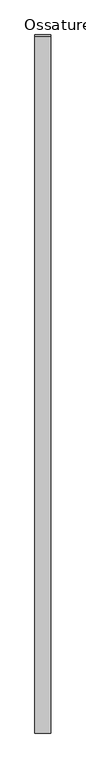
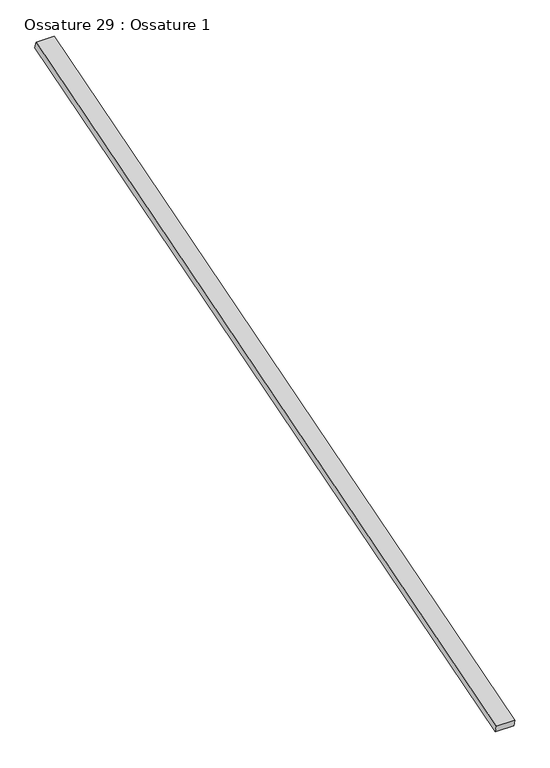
"""IFC4 building model written with IfcOpenShell, lengths in millimetres: beam geometry, Ossature 29 : Ossature 1."""

import ifcopenshell
import ifcopenshell.guid

model = None  # the IFC model being written
_history = None  # IfcOwnerHistory: only IFC2X3 demands one
_inside = {}  # id of a spatial element -> (the spatial element, [elements in it])
_under = {}  # id of a project, library or spatial element -> (it, [spatial elements below it])
_declared = {}  # id of a project -> (the project, [libraries it declares])
_typed = {}  # id of a type object -> (the type object, [elements of that type])
_made_of = {}  # id of a material, layer set ... -> (it, [elements and type objects made of it])


def new_model(schema):
    """Start an empty IFC model of exactly this schema.

    Asked for "IFC4X3", IfcOpenShell would pick the latest addendum, in which some entities
    have other attributes; the version numbers below select the first issue.
    IFC2X3 requires an IfcOwnerHistory on every rooted entity: one is made here for all.
    """
    global model, _history
    if schema == "IFC4X3":
        model = ifcopenshell.file(schema_version=(4, 3, 0, 0))
    else:
        model = ifcopenshell.file(schema=schema)
    _inside.clear()
    _under.clear()
    _declared.clear()
    _typed.clear()
    _made_of.clear()
    _history = None
    if model.schema == "IFC2X3":
        org = make("IfcOrganization", Name="unknown")
        user = make(
            "IfcPersonAndOrganization",
            ThePerson=make("IfcPerson", FamilyName="unknown"),
            TheOrganization=org,
        )
        app = make(
            "IfcApplication",
            ApplicationDeveloper=org,
            Version="unknown",
            ApplicationFullName="unknown",
            ApplicationIdentifier="unknown",
        )
        _history = make(
            "IfcOwnerHistory",
            OwningUser=user,
            OwningApplication=app,
            ChangeAction="ADDED",
            CreationDate=0,
        )
    return model


def make(cls, **values):
    """One entity of the class cls with the attributes given. An attribute that is None is left unset."""
    return model.create_entity(
        cls, **{name: value for name, value in values.items() if value is not None}
    )


def rooted(cls, **values):
    """An entity with a GlobalId (a new one), such as an element, a storey or a relation."""
    return make(cls, GlobalId=ifcopenshell.guid.new(), OwnerHistory=_history, **values)


def si_unit(unit_type, name, prefix=None):
    """IfcSIUnit, for example si_unit("LENGTHUNIT", "METRE", prefix="MILLI")."""
    return make("IfcSIUnit", UnitType=unit_type, Prefix=prefix, Name=name)


def assignment(units):
    """IfcUnitAssignment: the units of a project."""
    return None if units is None else make("IfcUnitAssignment", Units=units)


def point(xyz):
    """IfcCartesianPoint."""
    return None if xyz is None else make("IfcCartesianPoint", Coordinates=xyz)


def direction(xyz):
    """IfcDirection."""
    return None if xyz is None else make("IfcDirection", DirectionRatios=xyz)


def frame(location, z_axis=None, x_axis=None):
    """IfcAxis2Placement3D, a coordinate frame: its origin and axes. An axis left out is left unset."""
    return make(
        "IfcAxis2Placement3D",
        Location=point(location),
        Axis=direction(z_axis),
        RefDirection=direction(x_axis),
    )


def origin():
    """The frame at (0, 0, 0) with its axes left unset."""
    return frame((0.0, 0.0, 0.0))


def place(relative_to, where):
    """IfcLocalPlacement: puts the frame where relative to a parent placement (None: the world)."""
    return make(
        "IfcLocalPlacement", PlacementRelTo=relative_to, RelativePlacement=where
    )


def context(
    kind, dimensions, precision=None, world=None, true_north=None, identifier=None
):
    """IfcGeometricRepresentationContext, for example the 3D "Model" context."""
    return make(
        "IfcGeometricRepresentationContext",
        ContextIdentifier=identifier,
        ContextType=kind,
        CoordinateSpaceDimension=dimensions,
        Precision=precision,
        WorldCoordinateSystem=world,
        TrueNorth=true_north,
    )


def project(units=None, contexts=None):
    """IfcProject with its units and contexts."""
    return rooted(
        "IfcProject",
        Name="project",
        RepresentationContexts=contexts,
        UnitsInContext=assignment(units),
    )


def spatial(cls, under=None, at=None, **own):
    """A site, building, storey or space (cls), placed at a placement, below another one or the project."""
    s = rooted(cls, ObjectPlacement=at, **own)
    if under is not None:
        _under.setdefault(under.id(), (under, []))[1].append(s)
    return s


def polyline(points):
    """IfcPolyline through the points."""
    return make("IfcPolyline", Points=[point(p) for p in points])


def outline(outer, holes=None, kind="AREA"):
    """IfcArbitraryClosedProfileDef: a profile drawn as a closed curve; with holes, ...WithVoids."""
    if holes is None:
        return make("IfcArbitraryClosedProfileDef", ProfileType=kind, OuterCurve=outer)
    return make(
        "IfcArbitraryProfileDefWithVoids",
        ProfileType=kind,
        OuterCurve=outer,
        InnerCurves=holes,
    )


def extrude(swept, where, along, depth):
    """IfcExtrudedAreaSolid: the profile swept, set in the frame where, extruded along a direction by depth."""
    return make(
        "IfcExtrudedAreaSolid",
        SweptArea=swept,
        Position=where,
        ExtrudedDirection=direction(along),
        Depth=depth,
    )


def shape(context_of_items, identifier, shape_type, items):
    """IfcShapeRepresentation: the items that make up one representation, for example the "Body"."""
    return make(
        "IfcShapeRepresentation",
        ContextOfItems=context_of_items,
        RepresentationIdentifier=identifier,
        RepresentationType=shape_type,
        Items=items,
    )


def source(mapping_origin, context_of_items, identifier, shape_type, items):
    """IfcRepresentationMap: a shape defined once, which mapped items show again and again."""
    return make(
        "IfcRepresentationMap",
        MappingOrigin=mapping_origin,
        MappedRepresentation=shape(context_of_items, identifier, shape_type, items),
    )


def transform(
    local_origin,
    x_axis=None,
    y_axis=None,
    z_axis=None,
    scale=None,
    scale2=None,
    scale3=None,
    uniform=True,
):
    """IfcCartesianTransformationOperator3D, or its non-uniform kind. x_axis, y_axis, z_axis: its Axis1, 2, 3."""
    if uniform:
        return make(
            "IfcCartesianTransformationOperator3D",
            Axis1=direction(x_axis),
            Axis2=direction(y_axis),
            LocalOrigin=point(local_origin),
            Scale=scale,
            Axis3=direction(z_axis),
        )
    return make(
        "IfcCartesianTransformationOperator3DnonUniform",
        Axis1=direction(x_axis),
        Axis2=direction(y_axis),
        LocalOrigin=point(local_origin),
        Scale=scale,
        Axis3=direction(z_axis),
        Scale2=scale2,
        Scale3=scale3,
    )


def mapped(mapping_source, mapping_target):
    """IfcMappedItem: shows the shape of a source again, moved by a transform."""
    return make(
        "IfcMappedItem", MappingSource=mapping_source, MappingTarget=mapping_target
    )


def made_of(thing, what):
    """Note that an element or type object is made of a material, layer set ...; save() writes the relation."""
    if what is not None:
        _made_of.setdefault(what.id(), (what, []))[1].append(thing)
    return thing


def element(
    cls,
    number,
    at=None,
    inside=None,
    cuts=None,
    type_object=None,
    material=None,
    context=None,
    identifier="Body",
    shape_type=None,
    held_by="IfcProductDefinitionShape",
    body=None,
    shapes=None,
    **own,
):
    """One element of the class cls, such as IfcWall. Its Tag is "e" and its number.

    at: its placement. inside: the storey or other place that contains it. cuts: it is an
    opening in that element (IfcRelVoidsElement). A single representation is given by context,
    identifier, shape_type and body (its items); several are given by shapes. held_by: the class
    of the entity that holds the representations. save() writes the other relations.
    """
    e = rooted(cls, Tag="e%d" % number, ObjectPlacement=at, **own)
    if body is not None:
        shapes = [shape(context, identifier, shape_type, body)]
    if shapes is not None:
        e.Representation = make(held_by, Representations=shapes)
    if inside is not None:
        _inside.setdefault(inside.id(), (inside, []))[1].append(e)
    if cuts is not None:
        rooted(
            "IfcRelVoidsElement", RelatingBuildingElement=cuts, RelatedOpeningElement=e
        )
    if type_object is not None:
        _typed.setdefault(type_object.id(), (type_object, []))[1].append(e)
    return made_of(e, material)


def aggregate(whole, parts):
    """IfcRelAggregates: a whole, such as a stair, and the parts it consists of."""
    return rooted("IfcRelAggregates", RelatingObject=whole, RelatedObjects=parts)


def save(model, path):
    """Write the relations noted so far, then the file.

    IfcRelAggregates (storeys below a building ...), IfcRelContainedInSpatialStructure (elements
    in a storey), IfcRelDefinesByType, IfcRelAssociatesMaterial and IfcRelDeclares: one each for
    every whole, place, type object, material and project.
    """
    for whole, parts in _under.values():
        aggregate(whole, parts)
    for where, things in _inside.values():
        rooted(
            "IfcRelContainedInSpatialStructure",
            RelatedElements=things,
            RelatingStructure=where,
        )
    for kind, things in _typed.values():
        rooted("IfcRelDefinesByType", RelatedObjects=things, RelatingType=kind)
    for what, things in _made_of.values():
        rooted("IfcRelAssociatesMaterial", RelatedObjects=things, RelatingMaterial=what)
    for by, libraries in _declared.values():
        rooted("IfcRelDeclares", RelatingContext=by, RelatedDefinitions=libraries)
    model.write(path)


def ossature_29_ossature_1_5215d856(model_context):
    return source(origin(), model_context, "Body", "SweptSolid", [
        extrude(outline(polyline([(0.0, 0.0), (0.0, -4543.0299679), (-100.0, -4543.0299679), (-100.0, 0.0), (0.0, 0.0)])), frame((7211.8466393, -833.3913565, 8153.6336115), z_axis=(0.0, -0.28734788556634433, 0.9578262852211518), x_axis=(-1.0, 0.0, 0.0)), (0.0, 0.0, 1.0), 40.0),
    ])


if __name__ == "__main__":
    model = new_model("IFC4")
    model_context = context("Model", 3, world=origin())
    ifc_project = project(units=[si_unit("LENGTHUNIT", "METRE", prefix="MILLI")], contexts=[model_context])
    site = spatial("IfcSite", under=ifc_project)
    building = spatial("IfcBuilding", under=site)
    placement = place(None, origin())
    ossature_29_ossature_1_shape = ossature_29_ossature_1_5215d856(model_context)
    element("IfcBeam", 1, ObjectType="Ossature 29 : Ossature 1", at=placement, inside=building, context=model_context, shape_type="MappedRepresentation", body=[
        mapped(ossature_29_ossature_1_shape, transform((0.0, 0.0, 0.0), x_axis=(1.0, 0.0, 0.0), y_axis=(0.0, 1.0, 0.0), z_axis=(0.0, 0.0, 1.0))),
    ])
    save(model, "model.ifc")
